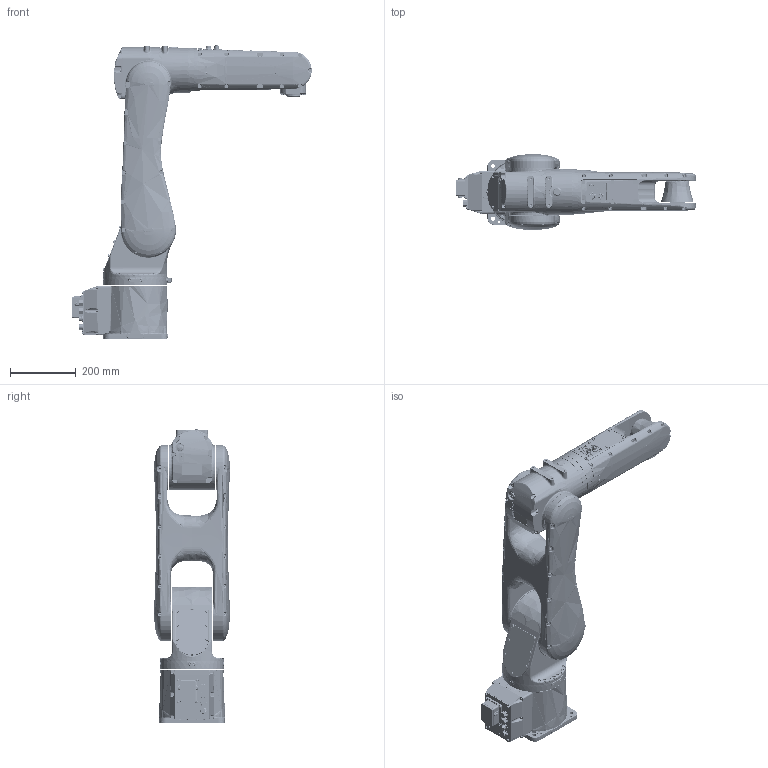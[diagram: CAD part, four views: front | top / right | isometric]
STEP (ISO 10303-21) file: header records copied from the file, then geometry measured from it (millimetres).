
FILE_DESCRIPTION((''),'2;1');
FILE_NAME('ASSY_VIEW_YR-N1-06VX7-C00_ASM','2025-09-19T18:06:42',('mttm21'),('YASKAWA ELECTRIC CORCORATION'),'CREO PARAMETRIC BY PTC INC, 2021072','CREO PARAMETRIC BY PTC INC, 2021072','');
FILE_SCHEMA(('CONFIG_CONTROL_DESIGN'));
Products named in the file (8): BASE_VIEW_YR-N1-06VX7-C00; S_VIEW_YR-N1-06VX7-C00; L_VIEW_YR-N1-06VX7-C00; U_VIEW_YR-N1-06VX7-C00; R_VIEW_YR-N1-06VX7-C00; B_VIEW_YR-N1-06VX7-C00; T_VIEW_YR-N1-06VX7-C00; ASSY_VIEW_YR-N1-06VX7-C00_ASM
Assembly tree (7 placements, depth 2):
  ASSY_VIEW_YR-N1-06VX7-C00_ASM
    BASE_VIEW_YR-N1-06VX7-C00
    S_VIEW_YR-N1-06VX7-C00
    L_VIEW_YR-N1-06VX7-C00
    U_VIEW_YR-N1-06VX7-C00
    R_VIEW_YR-N1-06VX7-C00
    B_VIEW_YR-N1-06VX7-C00
    T_VIEW_YR-N1-06VX7-C00
Bounding box: 727.65 x 230.79 x 891.1 mm (x, y, z)
Volume: 28427633.8 mm3; surface area: 1527761.5 mm2
Topology: 7 solids, 8 shells, 5632 faces, 13753 edges, 8461 vertices
Faces by surface type: plane 1818, cylinder 1710, bspline 1279, torus 372, cone 363, sphere 62, extrusion 24, revolution 4
Entity records: 269417 total; most frequent: CARTESIAN_POINT 145391, ORIENTED_EDGE 27402, DIRECTION 23665, EDGE_CURVE 13703, AXIS2_PLACEMENT_3D 9164, VERTEX_POINT 8461, EDGE_LOOP 6138, FACE_OUTER_BOUND 5632
